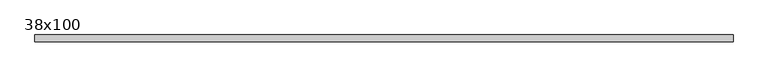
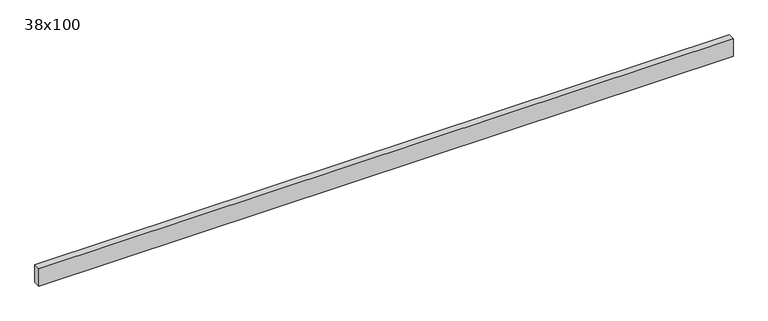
"""IFC4 building model written with IfcOpenShell, lengths in millimetres: beam geometry, Poutre - Bois de construction de dimensions courantes : 38x100."""

from ifc_helpers import new_model, si_unit, frame, origin, place, context, project, spatial, polyline, outline, extrude, source, transform, mapped, element, save


def beam_38x100_c6d19d19(model_context):
    return source(origin(), model_context, "Body", "SweptSolid", [
        extrude(outline(polyline([(1821.0, 19.05), (1821.0, -19.05), (-1981.0, -19.05), (-1981.0, 19.05), (1821.0, 19.05)])), frame((0.0, 0.0, -50.0), z_axis=(0.0, 0.0, 1.0), x_axis=(1.0, 0.0, 0.0)), (0.0, 0.0, 1.0), 100.0),
    ])


if __name__ == "__main__":
    model = new_model("IFC4")
    model_context = context("Model", 3, world=origin())
    ifc_project = project(units=[si_unit("LENGTHUNIT", "METRE", prefix="MILLI")], contexts=[model_context])
    site = spatial("IfcSite", under=ifc_project)
    building = spatial("IfcBuilding", under=site)
    placement = place(None, origin())
    beam_38x100_shape = beam_38x100_c6d19d19(model_context)
    element("IfcBeam", 1, ObjectType="Poutre - Bois de construction de dimensions courantes : 38x100", at=placement, inside=building, context=model_context, shape_type="MappedRepresentation", body=[
        mapped(beam_38x100_shape, transform((0.0, 0.0, 0.0), x_axis=(1.0, 0.0, 0.0), y_axis=(0.0, 1.0, 0.0), z_axis=(0.0, 0.0, 1.0))),
    ])
    save(model, "model.ifc")
